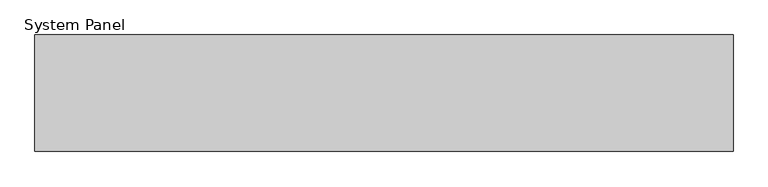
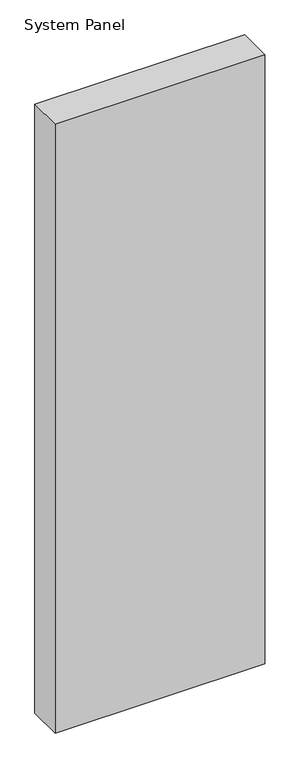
"""IFC4 building model written with IfcOpenShell, lengths in millimetres: plate geometry, System Panel : Equitilt 200mm Vertical - Plain RHEA - EPS-FR."""

from ifc_helpers import new_model, si_unit, origin, origin_with_axes, place, context, project, spatial, polyline, outline, extrude, source, transform, mapped, element, save


def system_panel_2a0c4a62(model_context):
    return source(origin(), model_context, "Body", "SweptSolid", [
        extrude(outline(polyline([(600.0, -200.0), (-600.0, -200.0), (-600.0, 0.0), (600.0, 0.0), (600.0, -200.0)])), origin_with_axes(), (0.0, 0.0, 1.0), 3679.9704237),
    ])


if __name__ == "__main__":
    model = new_model("IFC4")
    model_context = context("Model", 3, world=origin())
    ifc_project = project(units=[si_unit("LENGTHUNIT", "METRE", prefix="MILLI")], contexts=[model_context])
    site = spatial("IfcSite", under=ifc_project)
    building = spatial("IfcBuilding", under=site)
    placement = place(None, origin())
    system_panel_shape = system_panel_2a0c4a62(model_context)
    element("IfcPlate", 1, ObjectType="System Panel : Equitilt 200mm Vertical - Plain RHEA - EPS-FR", at=placement, inside=building, context=model_context, shape_type="MappedRepresentation", body=[
        mapped(system_panel_shape, transform((0.0, 0.0, 0.0), x_axis=(1.0, 0.0, 0.0), y_axis=(0.0, 1.0, 0.0), z_axis=(0.0, 0.0, 1.0))),
    ])
    save(model, "model.ifc")
